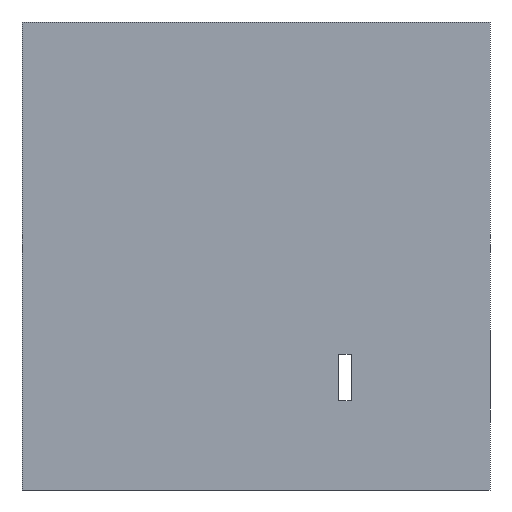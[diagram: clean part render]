
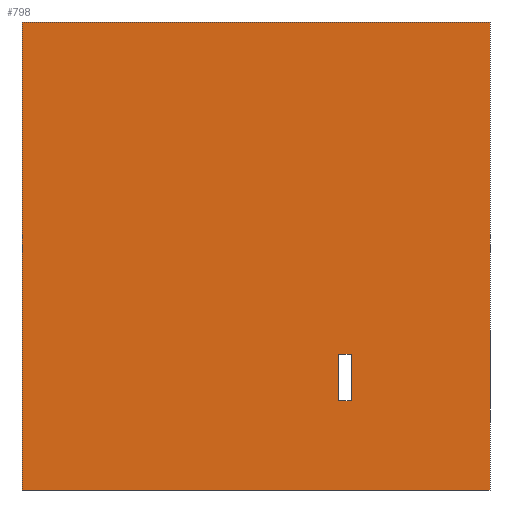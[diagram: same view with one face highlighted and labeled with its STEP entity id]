
A CAD part, left-side view. The second image highlights one B-rep face of the part: STEP entity #798.
In plain terms, the highlighted planar face has unit normal (-1, 0, 0).
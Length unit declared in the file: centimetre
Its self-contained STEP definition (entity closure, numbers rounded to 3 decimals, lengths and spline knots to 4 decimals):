
#16 = LINE ( 'NONE', #647, #246 ) ;
#20 = DIRECTION ( 'NONE',  ( 0., 0., -1. ) ) ;
#41 = CARTESIAN_POINT ( 'NONE',  ( 0., 1000., 1000. ) ) ;
#56 = LINE ( 'NONE', #474, #737 ) ;
#74 = ORIENTED_EDGE ( 'NONE', *, *, #692, .T. ) ;
#78 = DIRECTION ( 'NONE',  ( 0., -1., 0. ) ) ;
#86 = VERTEX_POINT ( 'NONE', #119 ) ;
#90 = VERTEX_POINT ( 'NONE', #254 ) ;
#93 = VECTOR ( 'NONE', #273, 100. ) ;
#96 = EDGE_CURVE ( 'NONE', #90, #299, #888, .T. ) ;
#97 = CARTESIAN_POINT ( 'NONE',  ( 0., 323.1864, 190.5935 ) ) ;
#119 = CARTESIAN_POINT ( 'NONE',  ( 0., 296.7113, 290.0512 ) ) ;
#126 = DIRECTION ( 'NONE',  ( 0., -1., 0. ) ) ;
#127 = VERTEX_POINT ( 'NONE', #657 ) ;
#129 = VECTOR ( 'NONE', #200, 100. ) ;
#131 = VECTOR ( 'NONE', #583, 100. ) ;
#182 = CARTESIAN_POINT ( 'NONE',  ( 0., 296.7113, 190.5935 ) ) ;
#184 = PLANE ( 'NONE',  #491 ) ;
#190 = FACE_BOUND ( 'NONE', #739, .T. ) ;
#191 = ORIENTED_EDGE ( 'NONE', *, *, #866, .T. ) ;
#200 = DIRECTION ( 'NONE',  ( 0., 0., -1. ) ) ;
#220 = DIRECTION ( 'NONE',  ( 0., 1., 0. ) ) ;
#230 = CARTESIAN_POINT ( 'NONE',  ( 0., 323.1864, 290.0512 ) ) ;
#246 = VECTOR ( 'NONE', #20, 100. ) ;
#254 = CARTESIAN_POINT ( 'NONE',  ( 0., 1000., 1000. ) ) ;
#256 = VERTEX_POINT ( 'NONE', #230 ) ;
#262 = CARTESIAN_POINT ( 'NONE',  ( 0., 1000., 1000. ) ) ;
#273 = DIRECTION ( 'NONE',  ( 0., -1., 0. ) ) ;
#285 = ORIENTED_EDGE ( 'NONE', *, *, #306, .T. ) ;
#299 = VERTEX_POINT ( 'NONE', #641 ) ;
#306 = EDGE_CURVE ( 'NONE', #90, #127, #16, .T. ) ;
#315 = EDGE_CURVE ( 'NONE', #443, #256, #716, .T. ) ;
#334 = LINE ( 'NONE', #528, #93 ) ;
#372 = ORIENTED_EDGE ( 'NONE', *, *, #96, .F. ) ;
#398 = ORIENTED_EDGE ( 'NONE', *, *, #587, .T. ) ;
#399 = LINE ( 'NONE', #408, #129 ) ;
#408 = CARTESIAN_POINT ( 'NONE',  ( 0., 0., 1000. ) ) ;
#443 = VERTEX_POINT ( 'NONE', #629 ) ;
#469 = DIRECTION ( 'NONE',  ( 0., 0., -1. ) ) ;
#474 = CARTESIAN_POINT ( 'NONE',  ( 0., 296.7113, 190.5935 ) ) ;
#478 = LINE ( 'NONE', #846, #521 ) ;
#491 = AXIS2_PLACEMENT_3D ( 'NONE', #41, #523, #738 ) ;
#521 = VECTOR ( 'NONE', #220, 100. ) ;
#523 = DIRECTION ( 'NONE',  ( 1., 0., 0. ) ) ;
#528 = CARTESIAN_POINT ( 'NONE',  ( 0., 1000., 0. ) ) ;
#538 = FACE_OUTER_BOUND ( 'NONE', #713, .T. ) ;
#583 = DIRECTION ( 'NONE',  ( 0., 0., 1. ) ) ;
#587 = EDGE_CURVE ( 'NONE', #630, #443, #478, .T. ) ;
#629 = CARTESIAN_POINT ( 'NONE',  ( 0., 323.1864, 190.5935 ) ) ;
#630 = VERTEX_POINT ( 'NONE', #182 ) ;
#641 = CARTESIAN_POINT ( 'NONE',  ( 0., 0., 1000. ) ) ;
#646 = EDGE_CURVE ( 'NONE', #86, #630, #56, .T. ) ;
#647 = CARTESIAN_POINT ( 'NONE',  ( 0., 1000., 1000. ) ) ;
#657 = CARTESIAN_POINT ( 'NONE',  ( 0., 1000., 0. ) ) ;
#671 = LINE ( 'NONE', #742, #788 ) ;
#692 = EDGE_CURVE ( 'NONE', #127, #913, #334, .T. ) ;
#705 = ORIENTED_EDGE ( 'NONE', *, *, #315, .T. ) ;
#713 = EDGE_LOOP ( 'NONE', ( #74, #804, #372, #285 ) ) ;
#716 = LINE ( 'NONE', #97, #131 ) ;
#721 = EDGE_CURVE ( 'NONE', #299, #913, #399, .T. ) ;
#737 = VECTOR ( 'NONE', #469, 100. ) ;
#738 = DIRECTION ( 'NONE',  ( 0., 0., -1. ) ) ;
#739 = EDGE_LOOP ( 'NONE', ( #760, #398, #705, #191 ) ) ;
#742 = CARTESIAN_POINT ( 'NONE',  ( 0., 296.7113, 290.0512 ) ) ;
#751 = CARTESIAN_POINT ( 'NONE',  ( 0., 0., 0. ) ) ;
#760 = ORIENTED_EDGE ( 'NONE', *, *, #646, .T. ) ;
#788 = VECTOR ( 'NONE', #126, 100. ) ;
#798 = ADVANCED_FACE ( 'NONE', ( #190, #538 ), #184, .F. ) ;
#804 = ORIENTED_EDGE ( 'NONE', *, *, #721, .F. ) ;
#846 = CARTESIAN_POINT ( 'NONE',  ( 0., 296.7113, 190.5935 ) ) ;
#865 = VECTOR ( 'NONE', #78, 100. ) ;
#866 = EDGE_CURVE ( 'NONE', #256, #86, #671, .T. ) ;
#888 = LINE ( 'NONE', #262, #865 ) ;
#913 = VERTEX_POINT ( 'NONE', #751 ) ;
